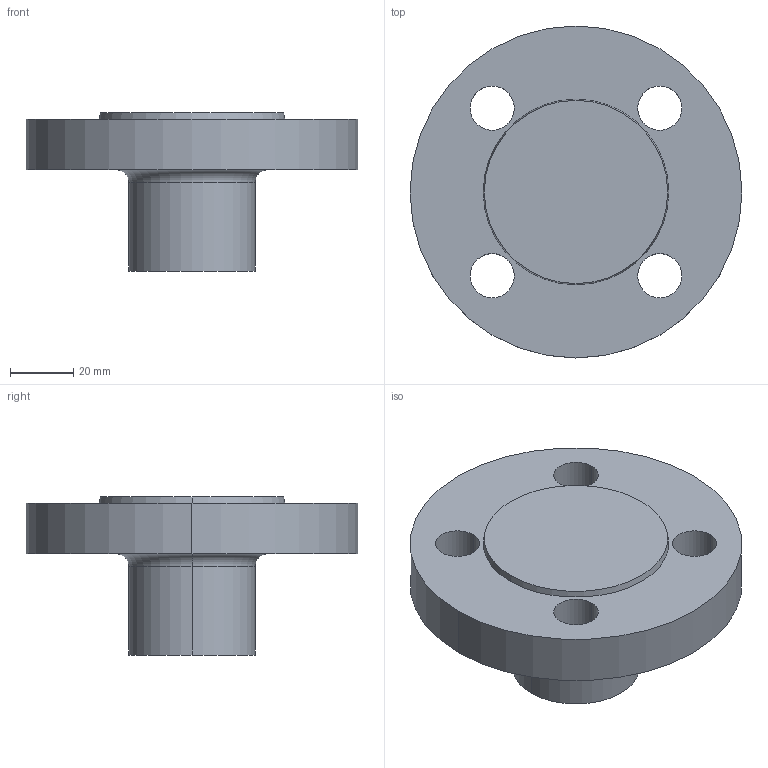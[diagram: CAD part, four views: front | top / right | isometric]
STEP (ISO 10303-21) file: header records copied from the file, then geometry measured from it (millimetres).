
FILE_DESCRIPTION (( 'STEP AP214' ), '1' );
FILE_NAME ('PN40 DN20 Type 21(i) - Type B Face.STEP', '2018-12-29T16:23:12', ( '' ), ( '' ), 'SwSTEP 2.0', 'SolidWorks 2019', '' );
FILE_SCHEMA (( 'AUTOMOTIVE_DESIGN' ));
Length unit declared in the file: millimetre
Products named in the file (1): PN40 DN20 Type 21(i) - Type B Face
Bounding box: 105 x 105 x 50 mm (x, y, z)
Volume: 174704 mm3; surface area: 28299.5 mm2
Topology: 1 solids, 1 shells, 20 faces, 46 edges, 30 vertices
Faces by surface type: cylinder 12, plane 4, torus 2, cone 2
Entity records: 636 total; most frequent: DIRECTION 120, CARTESIAN_POINT 97, ORIENTED_EDGE 92, AXIS2_PLACEMENT_3D 53, EDGE_CURVE 46, CIRCLE 32, EDGE_LOOP 30, VERTEX_POINT 30
